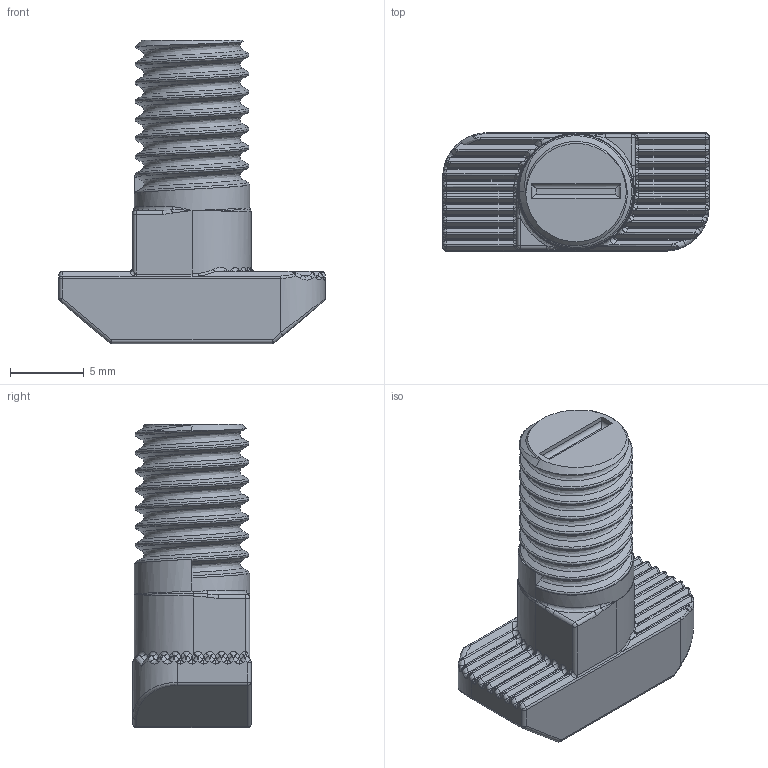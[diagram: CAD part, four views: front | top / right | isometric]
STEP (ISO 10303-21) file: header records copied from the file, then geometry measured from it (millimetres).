
FILE_DESCRIPTION (( 'STEP AP203' ), '1' );
FILE_NAME ('5025.STEP', '2016-01-21T10:08:38', ( '' ), ( '' ), 'SwSTEP 2.0', 'SolidWorks 2014', '' );
FILE_SCHEMA (( 'CONFIG_CONTROL_DESIGN' ));
Length unit declared in the file: millimetre
Products named in the file (1): 5025
Bounding box: 18 x 8 x 20.5 mm (x, y, z)
Volume: 1284.5 mm3; surface area: 961.3 mm2
Topology: 1 solids, 1 shells, 370 faces, 892 edges, 471 vertices
Faces by surface type: bspline 142, cylinder 126, plane 60, torus 29, sphere 10, cone 3
Entity records: 15722 total; most frequent: CARTESIAN_POINT 8573, ORIENTED_EDGE 1676, DIRECTION 1277, EDGE_CURVE 838, AXIS2_PLACEMENT_3D 512, VERTEX_POINT 471, EDGE_LOOP 371, FACE_OUTER_BOUND 370
